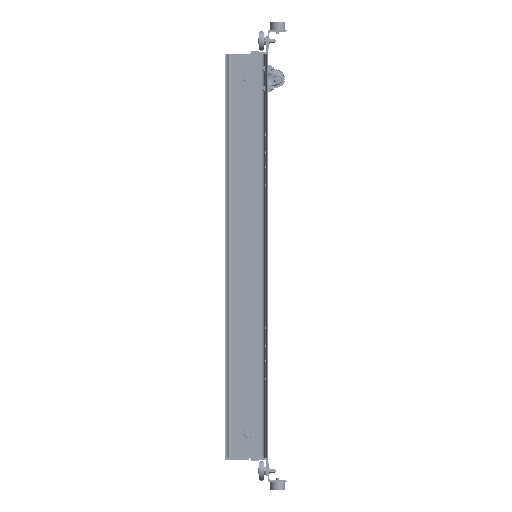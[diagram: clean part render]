
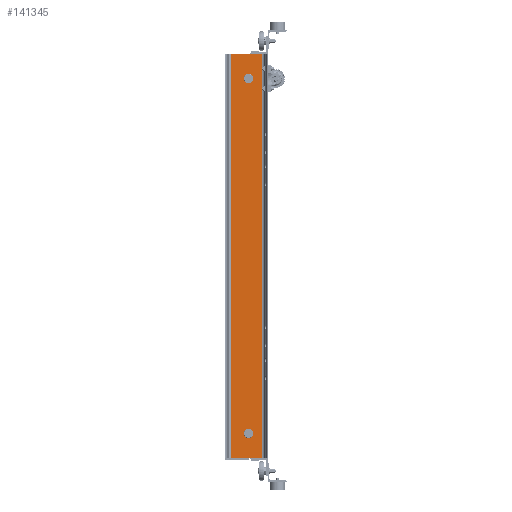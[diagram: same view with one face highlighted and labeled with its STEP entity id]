
A CAD part, left-side view. The second image highlights one B-rep face of the part: STEP entity #141345.
In plain terms, the highlighted planar face has unit normal (-1, 0, 0) as drawn and (1, 0, 0) by its records, which use the part's own axes.
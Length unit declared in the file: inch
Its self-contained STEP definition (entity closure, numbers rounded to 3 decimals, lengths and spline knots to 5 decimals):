
#424 = ORIENTED_EDGE ( 'NONE', *, *, #21598, .T. ) ;
#2322 = VERTEX_POINT ( 'NONE', #26190 ) ;
#6972 = EDGE_LOOP ( 'NONE', ( #178480, #158748 ) ) ;
#7512 = ORIENTED_EDGE ( 'NONE', *, *, #156904, .T. ) ;
#12011 = CIRCLE ( 'NONE', #118680, 0.789 ) ;
#12087 = FACE_OUTER_BOUND ( 'NONE', #75333, .T. ) ;
#15603 = EDGE_CURVE ( 'NONE', #170631, #116912, #18376, .T. ) ;
#16937 = CIRCLE ( 'NONE', #68644, 0.789 ) ;
#18376 = LINE ( 'NONE', #151847, #131745 ) ;
#19401 = ORIENTED_EDGE ( 'NONE', *, *, #85843, .F. ) ;
#21598 = EDGE_CURVE ( 'NONE', #91790, #116912, #187427, .T. ) ;
#22076 = ORIENTED_EDGE ( 'NONE', *, *, #15603, .F. ) ;
#22877 = ORIENTED_EDGE ( 'NONE', *, *, #179440, .T. ) ;
#26190 = CARTESIAN_POINT ( 'NONE',  ( 0.353, 3.622, -32.211 ) ) ;
#26478 = DIRECTION ( 'NONE',  ( -1., 0., 0. ) ) ;
#30244 = CARTESIAN_POINT ( 'NONE',  ( 0.353, 6.85768, -37.5 ) ) ;
#30375 = DIRECTION ( 'NONE',  ( 0., 1., 0. ) ) ;
#30452 = CARTESIAN_POINT ( 'NONE',  ( 0.353, 6.85768, 37.5 ) ) ;
#30798 = EDGE_CURVE ( 'NONE', #110125, #2322, #16937, .T. ) ;
#40975 = CARTESIAN_POINT ( 'NONE',  ( 0.353, 1.14232, 37.5 ) ) ;
#45218 = EDGE_LOOP ( 'NONE', ( #7512, #91562 ) ) ;
#47471 = CARTESIAN_POINT ( 'NONE',  ( 0.353, 3.622, -33.789 ) ) ;
#48302 = VECTOR ( 'NONE', #132338, 39.37008 ) ;
#49940 = AXIS2_PLACEMENT_3D ( 'NONE', #174041, #138492, #204227 ) ;
#62764 = CARTESIAN_POINT ( 'NONE',  ( 0.353, 1.14232, -37.5 ) ) ;
#64596 = CARTESIAN_POINT ( 'NONE',  ( 0.353, 3.622, 33. ) ) ;
#68644 = AXIS2_PLACEMENT_3D ( 'NONE', #183503, #99555, #69380 ) ;
#69380 = DIRECTION ( 'NONE',  ( 0., 1., 0. ) ) ;
#71812 = CARTESIAN_POINT ( 'NONE',  ( 0.353, 3.622, 32.211 ) ) ;
#75144 = CARTESIAN_POINT ( 'NONE',  ( 0.353, 3.622, 33.789 ) ) ;
#75333 = EDGE_LOOP ( 'NONE', ( #22076, #19401, #22877, #424 ) ) ;
#85002 = CARTESIAN_POINT ( 'NONE',  ( 0.353, 6.85768, 37.5 ) ) ;
#85208 = VERTEX_POINT ( 'NONE', #75144 ) ;
#85814 = EDGE_CURVE ( 'NONE', #85208, #165200, #120509, .T. ) ;
#85843 = EDGE_CURVE ( 'NONE', #209230, #170631, #133384, .T. ) ;
#90477 = DIRECTION ( 'NONE',  ( 0., 0., -1. ) ) ;
#91562 = ORIENTED_EDGE ( 'NONE', *, *, #30798, .T. ) ;
#91790 = VERTEX_POINT ( 'NONE', #194922 ) ;
#94656 = CIRCLE ( 'NONE', #49940, 0.789 ) ;
#94998 = FACE_BOUND ( 'NONE', #6972, .T. ) ;
#99555 = DIRECTION ( 'NONE',  ( -1., 0., 0. ) ) ;
#107928 = PLANE ( 'NONE',  #148514 ) ;
#110125 = VERTEX_POINT ( 'NONE', #47471 ) ;
#112267 = DIRECTION ( 'NONE',  ( 0., -1., 0. ) ) ;
#115159 = DIRECTION ( 'NONE',  ( 0., 1., 0. ) ) ;
#115343 = DIRECTION ( 'NONE',  ( 0., -1., 0. ) ) ;
#116912 = VERTEX_POINT ( 'NONE', #62764 ) ;
#117307 = EDGE_CURVE ( 'NONE', #165200, #85208, #12011, .T. ) ;
#118680 = AXIS2_PLACEMENT_3D ( 'NONE', #176095, #26478, #156767 ) ;
#120509 = CIRCLE ( 'NONE', #161890, 0.789 ) ;
#126195 = DIRECTION ( 'NONE',  ( 1., 0., 0. ) ) ;
#131745 = VECTOR ( 'NONE', #115343, 39.37008 ) ;
#132338 = DIRECTION ( 'NONE',  ( 0., 0., -1. ) ) ;
#132510 = CARTESIAN_POINT ( 'NONE',  ( 0.353, 6.85768, 37.5 ) ) ;
#133384 = LINE ( 'NONE', #85002, #48302 ) ;
#138492 = DIRECTION ( 'NONE',  ( -1., 0., 0. ) ) ;
#141252 = CARTESIAN_POINT ( 'NONE',  ( 0.353, 6.85768, 37.5 ) ) ;
#141345 = ADVANCED_FACE ( 'NONE', ( #94998, #12087, #194037 ), #107928, .T. ) ;
#142060 = VECTOR ( 'NONE', #90477, 39.37008 ) ;
#148514 = AXIS2_PLACEMENT_3D ( 'NONE', #141252, #126195, #30375 ) ;
#151847 = CARTESIAN_POINT ( 'NONE',  ( 0.353, 6.85768, -37.5 ) ) ;
#156767 = DIRECTION ( 'NONE',  ( 0., 1., 0. ) ) ;
#156904 = EDGE_CURVE ( 'NONE', #2322, #110125, #94656, .T. ) ;
#158748 = ORIENTED_EDGE ( 'NONE', *, *, #117307, .T. ) ;
#159710 = LINE ( 'NONE', #30452, #163184 ) ;
#161890 = AXIS2_PLACEMENT_3D ( 'NONE', #64596, #165709, #115159 ) ;
#163184 = VECTOR ( 'NONE', #112267, 39.37008 ) ;
#165200 = VERTEX_POINT ( 'NONE', #71812 ) ;
#165709 = DIRECTION ( 'NONE',  ( -1., 0., 0. ) ) ;
#170631 = VERTEX_POINT ( 'NONE', #30244 ) ;
#174041 = CARTESIAN_POINT ( 'NONE',  ( 0.353, 3.622, -33. ) ) ;
#176095 = CARTESIAN_POINT ( 'NONE',  ( 0.353, 3.622, 33. ) ) ;
#178480 = ORIENTED_EDGE ( 'NONE', *, *, #85814, .T. ) ;
#179440 = EDGE_CURVE ( 'NONE', #209230, #91790, #159710, .T. ) ;
#183503 = CARTESIAN_POINT ( 'NONE',  ( 0.353, 3.622, -33. ) ) ;
#187427 = LINE ( 'NONE', #40975, #142060 ) ;
#194037 = FACE_BOUND ( 'NONE', #45218, .T. ) ;
#194922 = CARTESIAN_POINT ( 'NONE',  ( 0.353, 1.14232, 37.5 ) ) ;
#204227 = DIRECTION ( 'NONE',  ( 0., 1., 0. ) ) ;
#209230 = VERTEX_POINT ( 'NONE', #132510 ) ;
